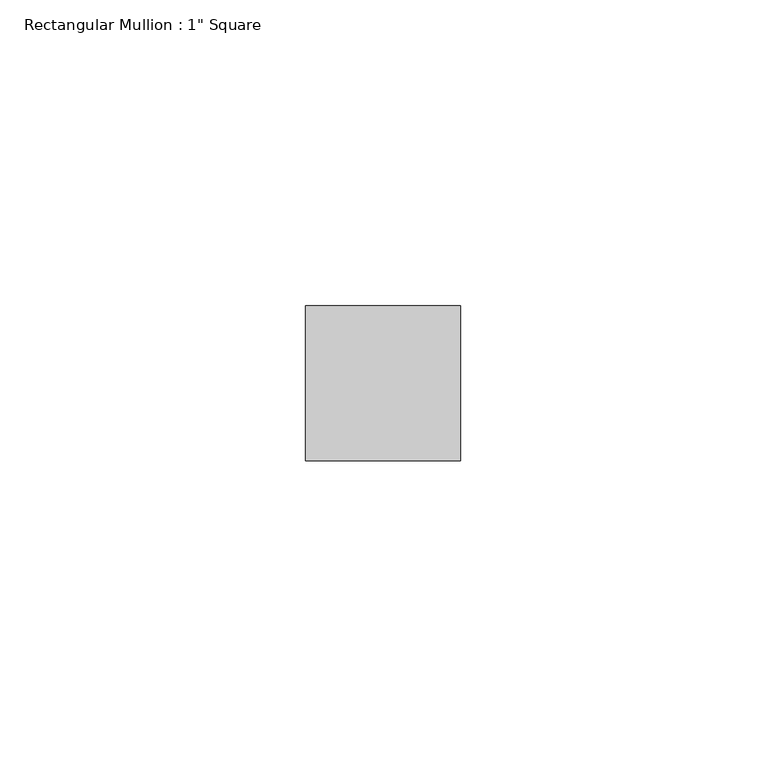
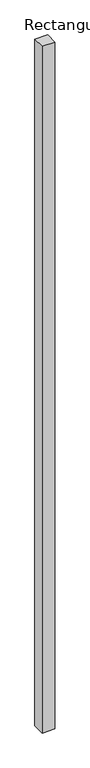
"""IFC4 building model written with IfcOpenShell, lengths in millimetres: member geometry."""

from ifc_helpers import new_model, si_unit, frame, origin, place, context, project, spatial, polyline, outline, extrude, source, transform, mapped, element, save


def member_398607d0(model_context):
    return source(origin(), model_context, "Body", "SweptSolid", [
        extrude(outline(polyline([(12.7, 12.7), (12.7, -12.7), (-12.7, -12.7), (-12.7, 12.7), (12.7, 12.7)])), frame((0.0, 0.0, -1453.0007139), z_axis=(0.0, 0.0, 1.0), x_axis=(1.0, 0.0, 0.0)), (0.0, 0.0, 1.0), 1453.0007139),
    ])


if __name__ == "__main__":
    model = new_model("IFC4")
    model_context = context("Model", 3, world=origin())
    ifc_project = project(units=[si_unit("LENGTHUNIT", "METRE", prefix="MILLI")], contexts=[model_context])
    site = spatial("IfcSite", under=ifc_project)
    building = spatial("IfcBuilding", under=site)
    placement = place(None, origin())
    member_shape = member_398607d0(model_context)
    element("IfcMember", 1, ObjectType="Rectangular Mullion : 1\" Square", at=placement, inside=building, context=model_context, shape_type="MappedRepresentation", body=[
        mapped(member_shape, transform((0.0, 0.0, 0.0), x_axis=(1.0, 0.0, 0.0), y_axis=(0.0, 1.0, 0.0), z_axis=(0.0, 0.0, 1.0))),
    ])
    save(model, "model.ifc")
